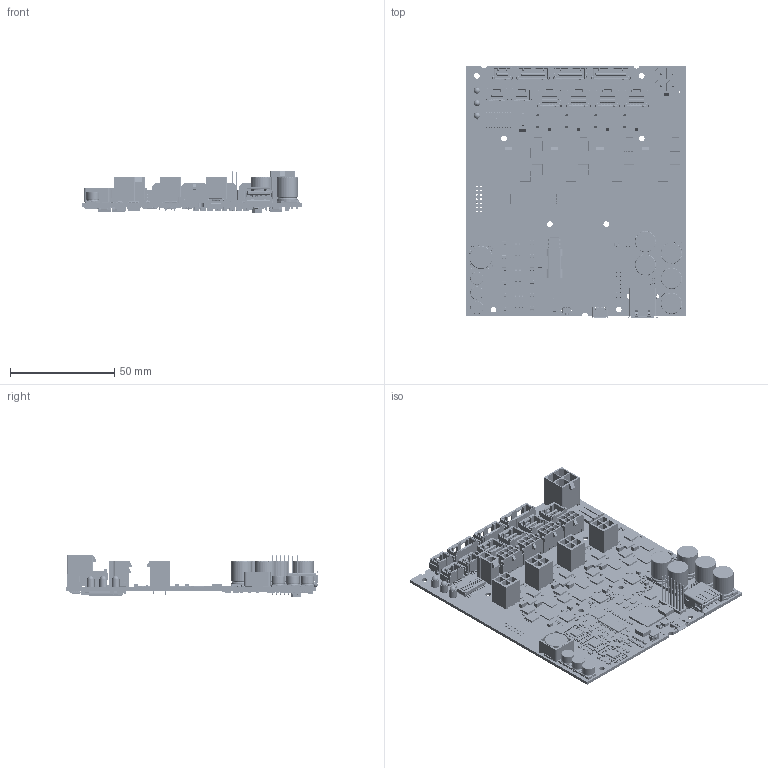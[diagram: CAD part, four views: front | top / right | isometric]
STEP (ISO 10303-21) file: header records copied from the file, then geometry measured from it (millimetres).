
FILE_DESCRIPTION(('Open CASCADE Model'),'2;1');
FILE_NAME('Open CASCADE Shape Model','2020-11-06T12:35:01',('Author'),( 'Open CASCADE'),'Open CASCADE STEP processor 6.8','Open CASCADE 6.8' ,'Unknown');
FILE_SCHEMA(('AUTOMOTIVE_DESIGN { 1 0 10303 214 1 1 1 1 }'));
Length unit declared in the file: millimetre
Products named in the file (924): PCB; Board; Open CASCADE STEP translator 6.8 5.1.1; Open CASCADE STEP translator 6.8 5.1.1.1; C184; 8825970480; Extruded; 8825970720; C183; C182; 8825969520; 8825969120; C181; R120; 8825964400; 8825964160; D106; 8825963760; 8825963520; R101; 8825963120; 8825962880; IC608; TSSOP_PW_16; BODY-TSSOP; LEAD-TSSOP; PIN1; 6120099488; L101; 8836733248; R626; IC609; IC607; C637; 8825322560; 8825322160; C636; C635; C634; D105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
Assembly tree (2675 placements, depth 5):
  PCB
    Board
      Open CASCADE STEP translator 6.8 5.1.1
        Open CASCADE STEP translator 6.8 5.1.1.1
    C184
      8825970480  x2
        Extruded
      8825970720
        Extruded
    C183
      8825970480  x2
        Extruded
      8825970720
        Extruded
    C182
      8825969520  x2
        Extruded
      8825969120
        Extruded
    C181
      8825969520  x2
        Extruded
      8825969120
        Extruded
    R120
      8825964400  x2
        Extruded
      8825964160
        Extruded
    D106
      8825963760  x2
        Extruded
      8825963520
        Extruded
    R101
      8825963120  x2
        Extruded
      8825962880
        Extruded
    IC608
      TSSOP_PW_16
        BODY-TSSOP
        LEAD-TSSOP  x16
        PIN1
      6120099488
        Extruded
    L101
      8836733248
        Extruded
    R626
      8825964400  x2
        Extruded
      8825964160
        Extruded
    IC609
      TSSOP_PW_16
        BODY-TSSOP
        LEAD-TSSOP  x16
        PIN1
      6120099488
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Bounding box: 105 x 121.23 x 20.27 mm (x, y, z)
Volume: 34936.7 mm3; surface area: 70032.9 mm2
Topology: 2630 solids, 2666 shells, 37723 faces, 93606 edges, 61658 vertices
Faces by surface type: plane 30069, cylinder 6406, bspline 612, sphere 465, cone 93, torus 60, extrusion 18
Full cylindrical faces by diameter (mm): 0.298 x1, 0.46 x2, 0.5 x7, 0.7 x6, 0.8 x29, 0.9 x3, 1 x38, 1.4 x18, 1.8 x5, 2 x1, 2.1 x1, 2.3 x2, 2.5 x1, 2.7 x8, 3.8 x3, 9.95 x5, 10 x5
Entity records: 339672 total; most frequent: CARTESIAN_POINT 76604, DIRECTION 49318, ORIENTED_EDGE 48908, EDGE_CURVE 24468, VECTOR 19878, LINE 19860, VERTEX_POINT 15764, AXIS2_PLACEMENT_3D 14720
